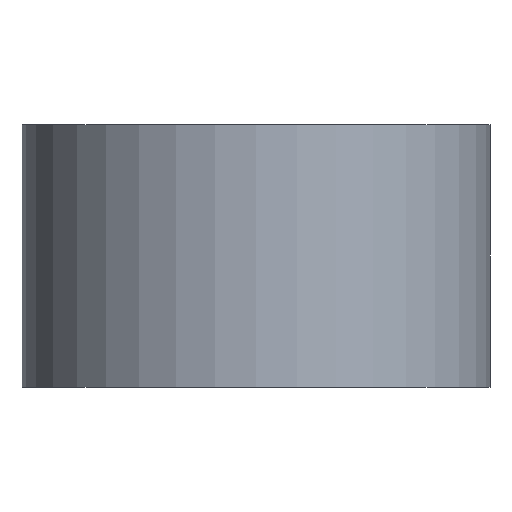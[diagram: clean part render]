
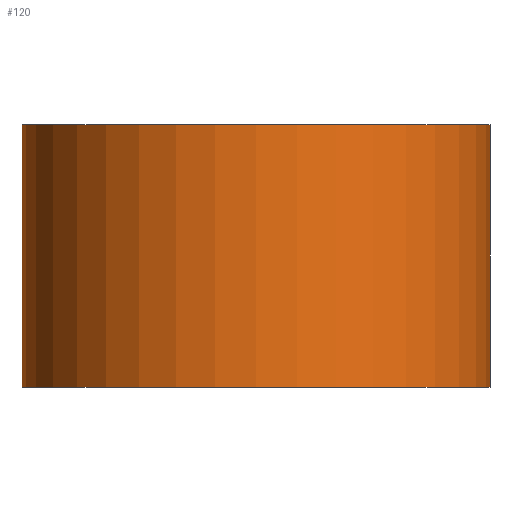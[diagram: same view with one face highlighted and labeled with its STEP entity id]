
A CAD part, front view. The second image highlights one B-rep face of the part: STEP entity #120.
In plain terms, the highlighted cylindrical face has radius 124 mm (diameter 248 mm), a partial arc.
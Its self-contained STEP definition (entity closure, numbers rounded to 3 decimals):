
#64=CARTESIAN_POINT('Axis2P3D Location',(0.,0.,69.5)) ;
#69=CARTESIAN_POINT('Line Origine',(124.,0.,69.5)) ;
#73=CARTESIAN_POINT('Vertex',(124.,0.,0.)) ;
#75=CARTESIAN_POINT('Vertex',(124.,0.,139.)) ;
#82=CARTESIAN_POINT('Vertex',(-124.,0.,0.)) ;
#85=CARTESIAN_POINT('Line Origine',(-124.,0.,69.5)) ;
#89=CARTESIAN_POINT('Vertex',(-124.,0.,139.)) ;
#104=CARTESIAN_POINT('Axis2P3D Location',(0.,0.,0.)) ;
#109=CARTESIAN_POINT('Axis2P3D Location',(0.,0.,139.)) ;
#65=DIRECTION('Axis2P3D Direction',(0.,0.,1.)) ;
#66=DIRECTION('Axis2P3D XDirection',(1.,0.,0.)) ;
#70=DIRECTION('Vector Direction',(0.,0.,1.)) ;
#86=DIRECTION('Vector Direction',(0.,0.,1.)) ;
#105=DIRECTION('Axis2P3D Direction',(0.,0.,1.)) ;
#110=DIRECTION('Axis2P3D Direction',(0.,0.,1.)) ;
#67=AXIS2_PLACEMENT_3D('Cylinder Axis2P3D',#64,#65,#66) ;
#106=AXIS2_PLACEMENT_3D('Circle Axis2P3D',#104,#105,$) ;
#111=AXIS2_PLACEMENT_3D('Circle Axis2P3D',#109,#110,$) ;
#115=ORIENTED_EDGE('',*,*,#91,.F.) ;
#116=ORIENTED_EDGE('',*,*,#108,.T.) ;
#117=ORIENTED_EDGE('',*,*,#77,.T.) ;
#118=ORIENTED_EDGE('',*,*,#113,.F.) ;
#71=VECTOR('Line Direction',#70,1.) ;
#87=VECTOR('Line Direction',#86,1.) ;
#120=ADVANCED_FACE('PartBody',(#119),#68,.T.) ;
#107=CIRCLE('generated circle',#106,124.) ;
#112=CIRCLE('generated circle',#111,124.) ;
#68=CYLINDRICAL_SURFACE('generated cylinder',#67,124.) ;
#77=EDGE_CURVE('',#74,#76,#72,.T.) ;
#91=EDGE_CURVE('',#83,#90,#88,.T.) ;
#108=EDGE_CURVE('',#83,#74,#107,.T.) ;
#113=EDGE_CURVE('',#90,#76,#112,.T.) ;
#114=EDGE_LOOP('',(#115,#116,#117,#118)) ;
#119=FACE_OUTER_BOUND('',#114,.T.) ;
#72=LINE('Line',#69,#71) ;
#88=LINE('Line',#85,#87) ;
#74=VERTEX_POINT('',#73) ;
#76=VERTEX_POINT('',#75) ;
#83=VERTEX_POINT('',#82) ;
#90=VERTEX_POINT('',#89) ;
